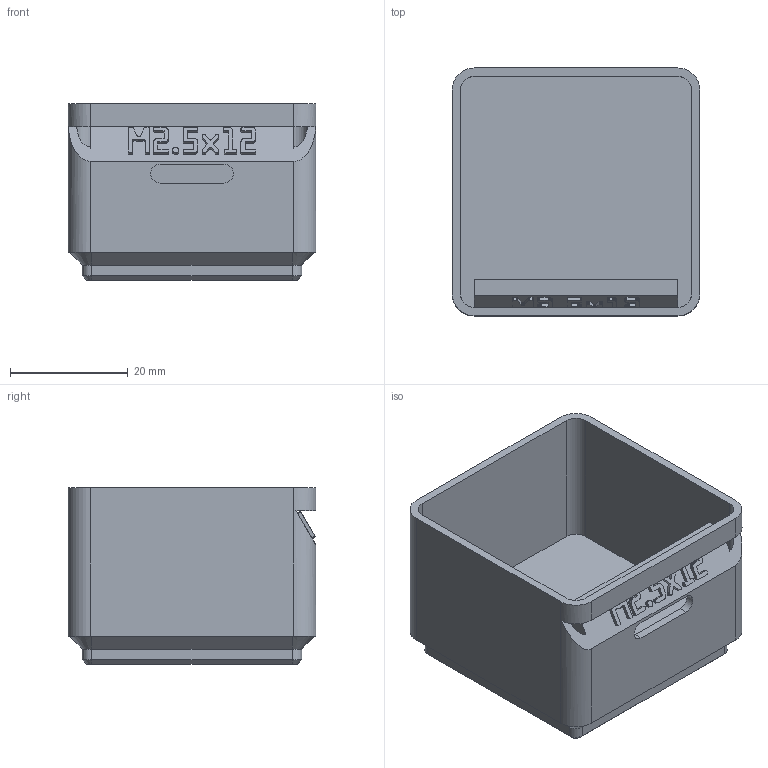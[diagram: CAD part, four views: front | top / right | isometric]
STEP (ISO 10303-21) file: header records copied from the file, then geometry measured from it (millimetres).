
FILE_DESCRIPTION(('Open CASCADE Model'),'2;1');
FILE_NAME('Open CASCADE Shape Model','2026-11-03T17:13:51',('Author'),( 'Open CASCADE'),'Open CASCADE STEP processor 8.0','build123d', 'Unknown');
FILE_SCHEMA(('AUTOMOTIVE_DESIGN { 1 0 10303 214 1 1 1 1 }'));
Length unit declared in the file: millimetre
Products named in the file (1): COMPOUND
Bounding box: 42 x 42 x 30 mm (x, y, z)
Volume: 14816.2 mm3; surface area: 12107.4 mm2
Topology: 1 solids, 1 shells, 668 faces, 1959 edges, 1300 vertices
Faces by surface type: plane 646, cylinder 14, cone 8
Entity records: 45942 total; most frequent: CARTESIAN_POINT 9240, DIRECTION 5933, LINE 4479, VECTOR 4479, ORIENTED_EDGE 3918, PCURVE 3918, DEFINITIONAL_REPRESENTATION 3918, EDGE_CURVE 1959
